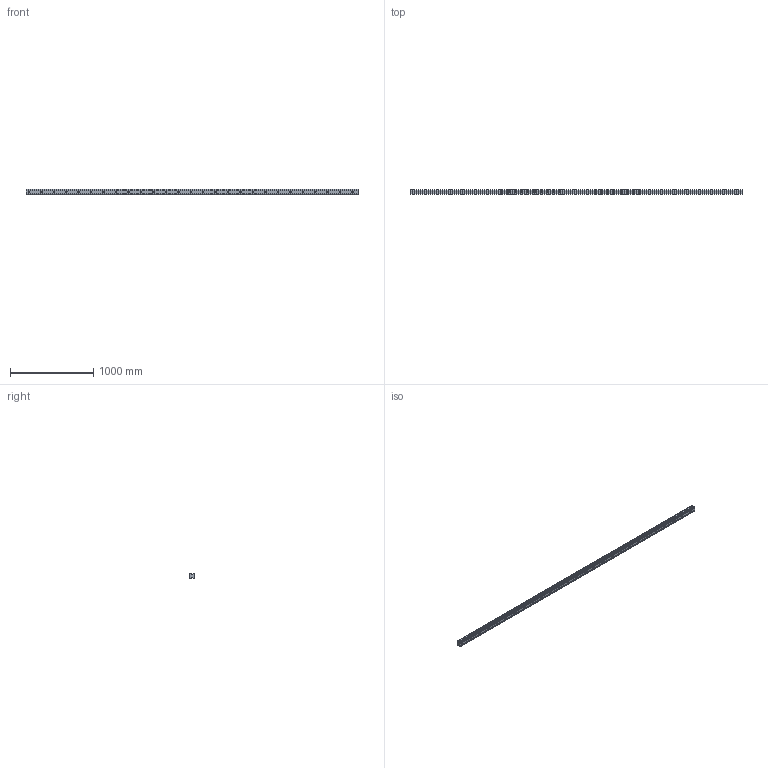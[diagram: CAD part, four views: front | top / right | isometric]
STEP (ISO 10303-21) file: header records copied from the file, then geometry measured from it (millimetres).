
FILE_DESCRIPTION (( 'STEP AP203' ), '1' );
FILE_NAME ('SGR65R4000L.STEP', '2025-06-26T09:05:18', ( 'Owner' ), ( 'Organization' ), 'SwSTEP 2.0', 'SolidWorks 2020', '' );
FILE_SCHEMA (( 'CONFIG_CONTROL_DESIGN' ));
Length unit declared in the file: millimetre
Products named in the file (1): SGR65R4000L
Bounding box: 4000 x 53 x 63 mm (x, y, z)
Volume: 10909346.7 mm3; surface area: 1047979.9 mm2
Topology: 1 solids, 1 shells, 175 faces, 438 edges, 292 vertices
Faces by surface type: cylinder 118, plane 57
Entity records: 5533 total; most frequent: DIRECTION 1026, CARTESIAN_POINT 906, ORIENTED_EDGE 876, EDGE_CURVE 438, AXIS2_PLACEMENT_3D 412, VERTEX_POINT 292, EDGE_LOOP 256, CIRCLE 236
